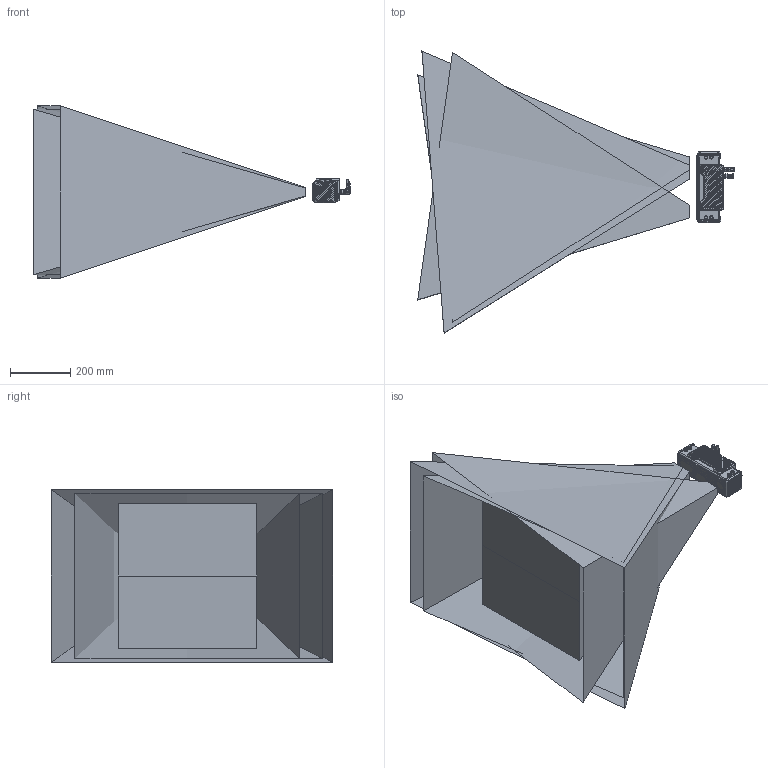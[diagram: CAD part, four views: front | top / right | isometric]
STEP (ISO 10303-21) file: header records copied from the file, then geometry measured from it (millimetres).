
FILE_DESCRIPTION((''),'2;1');
FILE_NAME('MV-DLS300P-04T-_ASM','2025-11-17T15:41:03',('guotianbo'),(''),'CREO PARAMETRIC BY PTC INC, 2020044','CREO PARAMETRIC BY PTC INC, 2020044','');
FILE_SCHEMA(('AUTOMOTIVE_DESIGN { 1 0 10303 214 1 1 1 1 }'));
Products named in the file (1): MV-DLS300P-04T-_ASM
Bounding box: 1053.6 x 938.12 x 574.45 mm (x, y, z)
Surface area: 5113551.5 mm2 (no closed solid volume)
Topology: 0 solids, 88 shells, 2296 faces, 7308 edges, 4986 vertices
Faces by surface type: plane 1207, cylinder 780, cone 134, bspline 86, torus 61, extrusion 28
Entity records: 127724 total; most frequent: CARTESIAN_POINT 59775, ORIENTED_EDGE 12884, DIRECTION 12538, EDGE_CURVE 7284, VERTEX_POINT 4986, AXIS2_PLACEMENT_3D 4211, VECTOR 4116, LINE 4088
